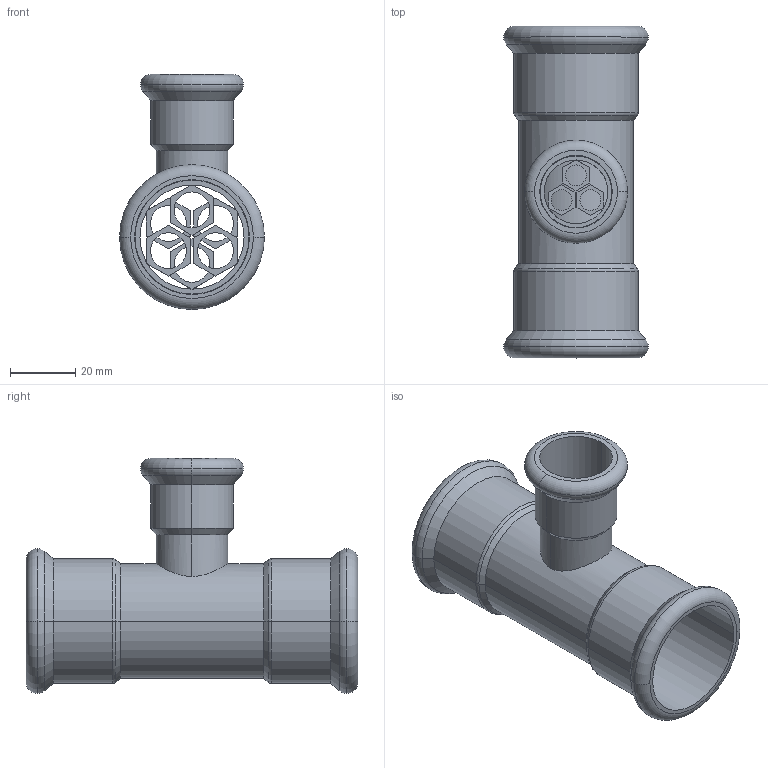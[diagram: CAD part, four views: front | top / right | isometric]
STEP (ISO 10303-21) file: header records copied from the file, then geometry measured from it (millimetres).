
FILE_DESCRIPTION(('OneSpaceDesigner STEP Export'),'2;1');
FILE_NAME('R2715 35x22x35.stp','2010-06-10T 9:03:46',(''),(''),'OneSpace Designer STEP processor for AP214 (Solid Model)','OneSpace Modeling 15.00A 14-Mar-2007 (C) CoCreate Software GmbH','');
FILE_SCHEMA(('AUTOMOTIVE_DESIGN { 1 0 10303 214 1 1 1 1 }'));
Length unit declared in the file: millimetre
Products named in the file (2): R2715_35x22x35
Assembly tree (1 placements, depth 2):
  R2715_35x22x35
    R2715_35x22x35
Bounding box: 44.55 x 102 x 72.28 mm (x, y, z)
Volume: 28843.6 mm3; surface area: 32437 mm2
Topology: 1 solids, 1 shells, 172 faces, 425 edges, 272 vertices
Faces by surface type: plane 90, cylinder 54, torus 16, cone 12
Entity records: 5638 total; most frequent: CARTESIAN_POINT 1837, ORIENTED_EDGE 850, DIRECTION 675, EDGE_CURVE 425, VERTEX_POINT 272, VECTOR 263, LINE 263, EDGE_LOOP 209
